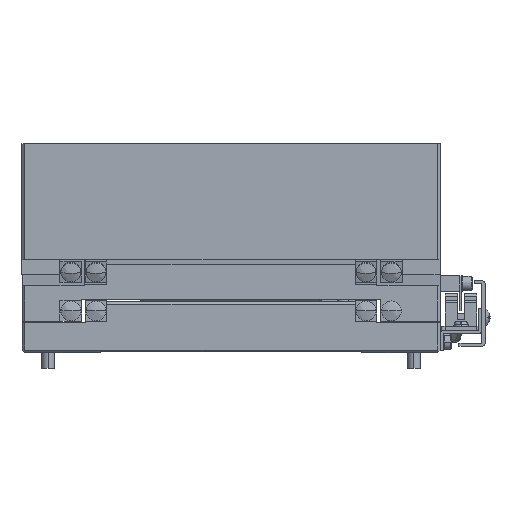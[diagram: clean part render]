
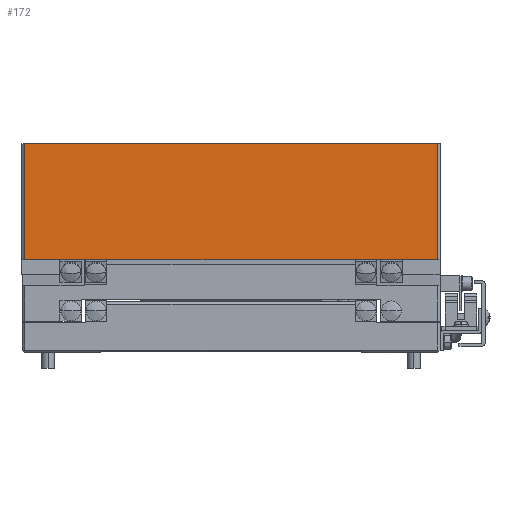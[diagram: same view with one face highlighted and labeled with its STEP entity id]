
A CAD part, left-side view. The second image highlights one B-rep face of the part: STEP entity #172.
In plain terms, the highlighted planar face has unit normal (-1, 0, 0) as drawn and (1, 0, 0) by its records, which use the part's own axes.
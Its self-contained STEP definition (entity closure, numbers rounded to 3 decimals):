
#172 = ADVANCED_FACE ( 'NONE', ( #57009 ), #36307, .T. ) ;
#1199 = EDGE_CURVE ( 'NONE', #63137, #5601, #60525, .T. ) ;
#4354 = ORIENTED_EDGE ( 'NONE', *, *, #59082, .T. ) ;
#5601 = VERTEX_POINT ( 'NONE', #17782 ) ;
#5963 = DIRECTION ( 'NONE',  ( 0., 1., 0. ) ) ;
#11471 = EDGE_LOOP ( 'NONE', ( #38886, #61627, #53380, #4354 ) ) ;
#13099 = EDGE_CURVE ( 'NONE', #49961, #5601, #58873, .T. ) ;
#17782 = CARTESIAN_POINT ( 'NONE',  ( 283.894, -76.774, 221.647 ) ) ;
#19312 = LINE ( 'NONE', #64751, #24848 ) ;
#19443 = DIRECTION ( 'NONE',  ( 0., 1., 0. ) ) ;
#20073 = CARTESIAN_POINT ( 'NONE',  ( 283.894, -76.774, 221.647 ) ) ;
#24848 = VECTOR ( 'NONE', #5963, 1000. ) ;
#27429 = AXIS2_PLACEMENT_3D ( 'NONE', #45354, #62630, #39156 ) ;
#36307 = PLANE ( 'NONE',  #27429 ) ;
#37421 = VECTOR ( 'NONE', #73400, 1000. ) ;
#37638 = CARTESIAN_POINT ( 'NONE',  ( 283.894, -76.774, 177.147 ) ) ;
#37657 = LINE ( 'NONE', #45241, #41357 ) ;
#38886 = ORIENTED_EDGE ( 'NONE', *, *, #40561, .T. ) ;
#39156 = DIRECTION ( 'NONE',  ( 0., 1., 0. ) ) ;
#39679 = CARTESIAN_POINT ( 'NONE',  ( 283.894, -234.774, 221.647 ) ) ;
#40561 = EDGE_CURVE ( 'NONE', #69668, #63137, #19312, .T. ) ;
#41357 = VECTOR ( 'NONE', #56884, 1000. ) ;
#45241 = CARTESIAN_POINT ( 'NONE',  ( 283.894, -234.774, 177.147 ) ) ;
#45354 = CARTESIAN_POINT ( 'NONE',  ( 283.894, -235.774, 221.647 ) ) ;
#49961 = VERTEX_POINT ( 'NONE', #39679 ) ;
#53380 = ORIENTED_EDGE ( 'NONE', *, *, #13099, .F. ) ;
#54823 = CARTESIAN_POINT ( 'NONE',  ( 283.894, -235.774, 221.647 ) ) ;
#55186 = VECTOR ( 'NONE', #19443, 1000. ) ;
#56884 = DIRECTION ( 'NONE',  ( 0., 0., -1. ) ) ;
#57009 = FACE_OUTER_BOUND ( 'NONE', #11471, .T. ) ;
#58873 = LINE ( 'NONE', #54823, #55186 ) ;
#59082 = EDGE_CURVE ( 'NONE', #49961, #69668, #37657, .T. ) ;
#60525 = LINE ( 'NONE', #20073, #37421 ) ;
#61627 = ORIENTED_EDGE ( 'NONE', *, *, #1199, .T. ) ;
#62630 = DIRECTION ( 'NONE',  ( 1., 0., 0. ) ) ;
#63137 = VERTEX_POINT ( 'NONE', #37638 ) ;
#64751 = CARTESIAN_POINT ( 'NONE',  ( 283.894, -235.774, 177.147 ) ) ;
#69668 = VERTEX_POINT ( 'NONE', #75997 ) ;
#73400 = DIRECTION ( 'NONE',  ( 0., 0., 1. ) ) ;
#75997 = CARTESIAN_POINT ( 'NONE',  ( 283.894, -234.774, 177.147 ) ) ;
